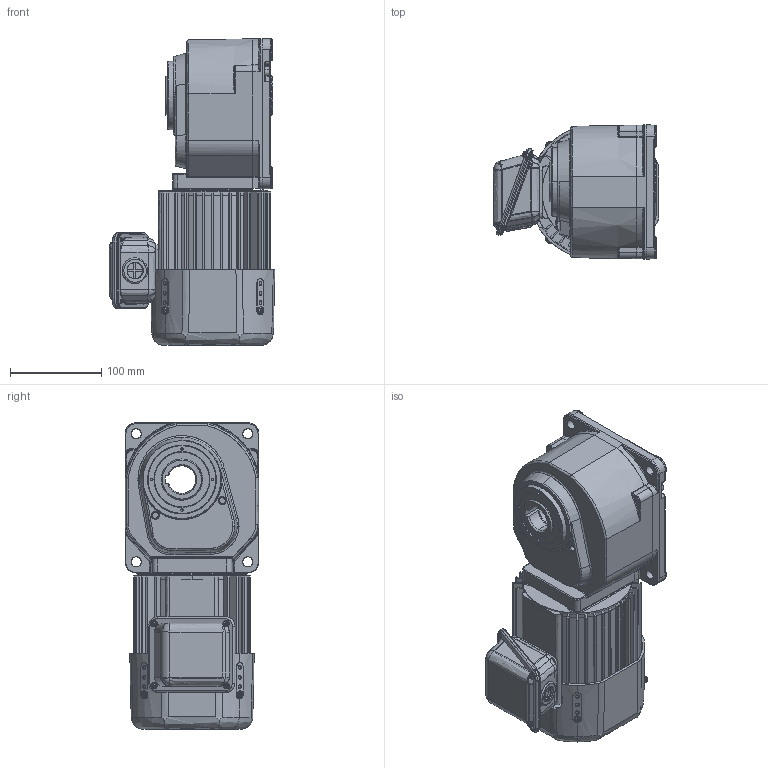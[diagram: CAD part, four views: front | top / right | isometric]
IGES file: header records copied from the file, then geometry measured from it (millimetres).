
Start section: SolidWorks IGES file using analytic representation for surfaces
Global section: file name: \\100.100.100.8\1_共有作業フォルダ\1-5_３Ｄデータ\solidworks\personal-folder\H.Nagayama\HF外形\HF\sldasm\TMHFB-02-(5~240).IGS; native system: SolidWorks 2018; preprocessor: SolidWorks 2018; author: sigma-giken; date: 200219.163058; units: millimetre
Bounding box: 181 x 146.35 x 335.2 mm (x, y, z)
Surface area: 483313 mm2 (no closed solid volume)
Topology: 0 solids, 0 shells, 1956 faces, 25000 edges, 24954 vertices
Faces by surface type: revolution 980, bspline 976
